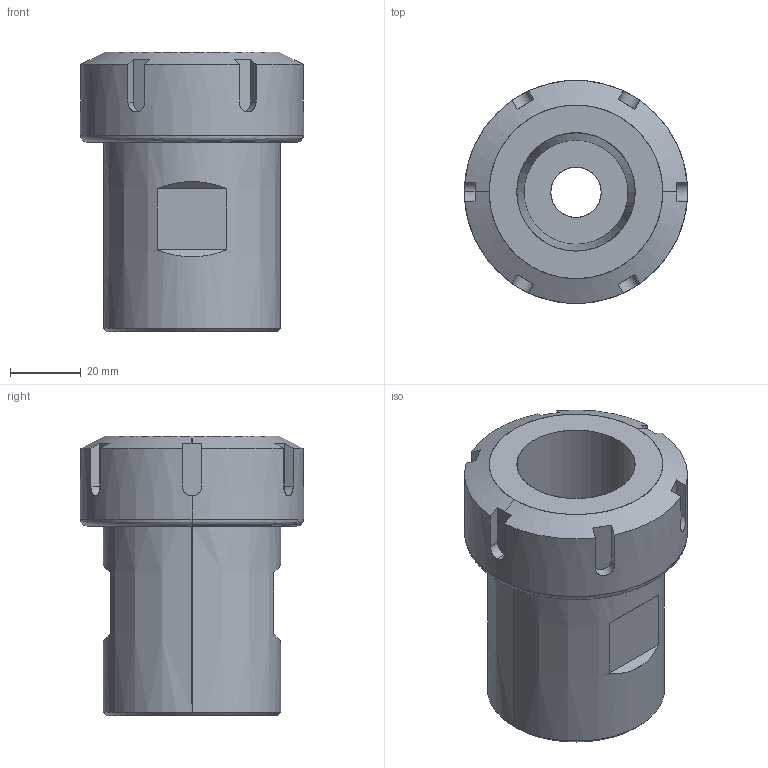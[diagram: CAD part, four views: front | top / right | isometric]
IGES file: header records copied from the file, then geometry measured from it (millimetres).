
Start section: SolidWorks IGES file using analytic representation for surfaces
Global section: file name: R:\Inventor\Kundmodeller Solidworks\Chuckar\040J000110 Collet chuck ER40 JT2 14-30 mm.IGS; native system: SolidWorks 2008; preprocessor: SolidWorks 2008; author: Johan; date: 090903.152009; units: millimetre
Bounding box: 63 x 63 x 79 mm (x, y, z)
Surface area: 26783 mm2 (no closed solid volume)
Topology: 0 solids, 0 shells, 56 faces, 1085 edges, 1085 vertices
Faces by surface type: bspline 35, revolution 21
